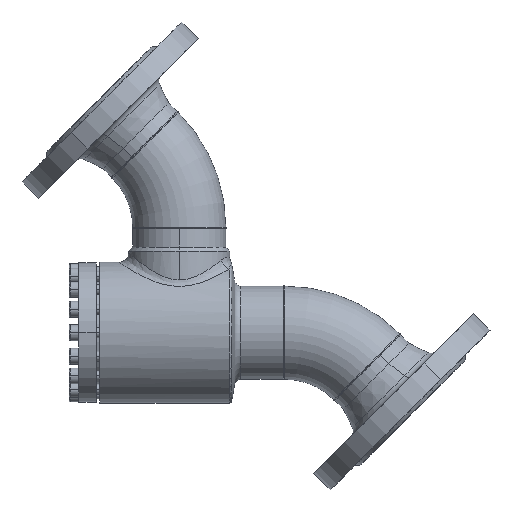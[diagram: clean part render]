
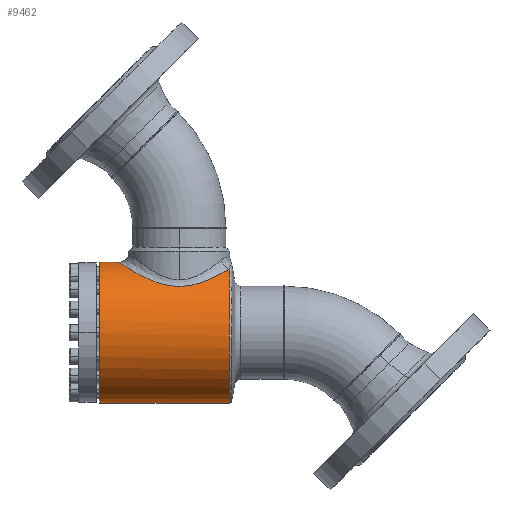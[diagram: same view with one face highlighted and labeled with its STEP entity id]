
A CAD part, left-side view. The second image highlights one B-rep face of the part: STEP entity #9462.
In plain terms, the highlighted cylindrical face has radius 57.5 mm (diameter 115 mm), a partial arc.
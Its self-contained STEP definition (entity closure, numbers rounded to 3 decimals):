
#1668 = CARTESIAN_POINT ( 'NONE',  ( 0., 0., -57.5 ) ) ;
#1777 = LINE ( 'NONE', #1778, #1779 ) ;
#1778 = CARTESIAN_POINT ( 'NONE',  ( 0., -111., -57.5 ) ) ;
#1779 = VECTOR ( 'NONE', #1780, 1000. ) ;
#1780 = DIRECTION ( 'NONE',  ( 0., 1., 0. ) ) ;
#1974 = CIRCLE ( 'NONE', #1975, 57.5 ) ;
#1975 = AXIS2_PLACEMENT_3D ( 'NONE', #1976, #1977, #1978 ) ;
#1976 = CARTESIAN_POINT ( 'NONE',  ( 0., 0., 0. ) ) ;
#1977 = DIRECTION ( 'NONE',  ( 0., 1., 0. ) ) ;
#1978 = DIRECTION ( 'NONE',  ( 0., 0., 1. ) ) ;
#2867 = B_SPLINE_CURVE_WITH_KNOTS ( 'NONE', 3,
 ( #2868, #2869, #2870, #2871, #2872, #2873, #2874, #2875, #2880, #2881, #2882, #2883, #2884, #2885, #2886, #2887, #2888, #2889, #2890, #2891, #2892, #2893, #2894, #2895, #2899, #2900, #2901, #2902, #2903, #2904, #2905, #2906, #2907, #2908, #2909, #2910, #2911, #2912, #2913, #2914, #2916, #2917, #2918, #2919, #2920, #2921, #2922, #2923, #2924, #2925, #2926, #2927, #2928, #2929, #2930, #2931, #2932, #2933, #2934, #2935, #2936, #2937 ),
 .UNSPECIFIED., .F., .F.,
 ( 4, 2, 2, 2, 2, 2, 2, 2, 2, 2, 2, 2, 2, 2, 2, 2, 2, 2, 2, 2, 2, 2, 2, 2, 2, 2, 2, 2, 2, 2, 4 ),
 ( 0., 0.008, 0.016, 0.017, 0.019, 0.023, 0.031, 0.035, 0.039, 0.047, 0.049, 0.05, 0.054, 0.058, 0.06, 0.062, 0.07, 0.074, 0.078, 0.085, 0.089, 0.091, 0.093, 0.101, 0.105, 0.107, 0.109, 0.116, 0.118, 0.12, 0.124 ),
 .UNSPECIFIED. ) ;
#2868 = CARTESIAN_POINT ( 'NONE',  ( -24.174, -105.892, 52.171 ) ) ;
#2869 = CARTESIAN_POINT ( 'NONE',  ( -26.132, -104.39, 51.264 ) ) ;
#2870 = CARTESIAN_POINT ( 'NONE',  ( -27.915, -102.76, 50.305 ) ) ;
#2871 = CARTESIAN_POINT ( 'NONE',  ( -31.195, -99.268, 48.34 ) ) ;
#2872 = CARTESIAN_POINT ( 'NONE',  ( -32.691, -97.405, 47.333 ) ) ;
#2873 = CARTESIAN_POINT ( 'NONE',  ( -34.397, -94.927, 46.079 ) ) ;
#2874 = CARTESIAN_POINT ( 'NONE',  ( -34.73, -94.424, 45.829 ) ) ;
#2875 = CARTESIAN_POINT ( 'NONE',  ( -35.379, -93.402, 45.329 ) ) ;
#2880 = CARTESIAN_POINT ( 'NONE',  ( -35.695, -92.884, 45.08 ) ) ;
#2881 = CARTESIAN_POINT ( 'NONE',  ( -36.613, -91.317, 44.344 ) ) ;
#2882 = CARTESIAN_POINT ( 'NONE',  ( -37.186, -90.253, 43.863 ) ) ;
#2883 = CARTESIAN_POINT ( 'NONE',  ( -38.793, -86.998, 42.466 ) ) ;
#2884 = CARTESIAN_POINT ( 'NONE',  ( -39.716, -84.747, 41.594 ) ) ;
#2885 = CARTESIAN_POINT ( 'NONE',  ( -40.882, -81.225, 40.437 ) ) ;
#2886 = CARTESIAN_POINT ( 'NONE',  ( -41.234, -80.027, 40.077 ) ) ;
#2887 = CARTESIAN_POINT ( 'NONE',  ( -41.862, -77.576, 39.421 ) ) ;
#2888 = CARTESIAN_POINT ( 'NONE',  ( -42.138, -76.319, 39.125 ) ) ;
#2889 = CARTESIAN_POINT ( 'NONE',  ( -42.831, -72.529, 38.37 ) ) ;
#2890 = CARTESIAN_POINT ( 'NONE',  ( -43.12, -69.961, 38.038 ) ) ;
#2891 = CARTESIAN_POINT ( 'NONE',  ( -43.257, -66.692, 37.883 ) ) ;
#2892 = CARTESIAN_POINT ( 'NONE',  ( -43.273, -66.034, 37.864 ) ) ;
#2893 = CARTESIAN_POINT ( 'NONE',  ( -43.282, -64.718, 37.854 ) ) ;
#2894 = CARTESIAN_POINT ( 'NONE',  ( -43.275, -64.063, 37.862 ) ) ;
#2895 = CARTESIAN_POINT ( 'NONE',  ( -43.219, -62.103, 37.926 ) ) ;
#2899 = CARTESIAN_POINT ( 'NONE',  ( -43.137, -60.806, 38.02 ) ) ;
#2900 = CARTESIAN_POINT ( 'NONE',  ( -42.884, -58.229, 38.305 ) ) ;
#2901 = CARTESIAN_POINT ( 'NONE',  ( -42.713, -56.95, 38.496 ) ) ;
#2902 = CARTESIAN_POINT ( 'NONE',  ( -42.391, -55.043, 38.85 ) ) ;
#2903 = CARTESIAN_POINT ( 'NONE',  ( -42.272, -54.408, 38.979 ) ) ;
#2904 = CARTESIAN_POINT ( 'NONE',  ( -42.014, -53.15, 39.257 ) ) ;
#2905 = CARTESIAN_POINT ( 'NONE',  ( -41.875, -52.528, 39.406 ) ) ;
#2906 = CARTESIAN_POINT ( 'NONE',  ( -41.13, -49.446, 40.191 ) ) ;
#2907 = CARTESIAN_POINT ( 'NONE',  ( -40.378, -47.077, 40.957 ) ) ;
#2908 = CARTESIAN_POINT ( 'NONE',  ( -39.022, -43.642, 42.237 ) ) ;
#2909 = CARTESIAN_POINT ( 'NONE',  ( -38.532, -42.517, 42.685 ) ) ;
#2910 = CARTESIAN_POINT ( 'NONE',  ( -37.473, -40.304, 43.618 ) ) ;
#2911 = CARTESIAN_POINT ( 'NONE',  ( -36.908, -39.223, 44.098 ) ) ;
#2912 = CARTESIAN_POINT ( 'NONE',  ( -35.115, -36.073, 45.559 ) ) ;
#2913 = CARTESIAN_POINT ( 'NONE',  ( -33.785, -34.085, 46.562 ) ) ;
#2914 = CARTESIAN_POINT ( 'NONE',  ( -31.574, -31.259, 48.064 ) ) ;
#2916 = CARTESIAN_POINT ( 'NONE',  ( -30.801, -30.343, 48.564 ) ) ;
#2917 = CARTESIAN_POINT ( 'NONE',  ( -29.582, -29.009, 49.309 ) ) ;
#2918 = CARTESIAN_POINT ( 'NONE',  ( -29.166, -28.57, 49.557 ) ) ;
#2919 = CARTESIAN_POINT ( 'NONE',  ( -28.313, -27.708, 50.049 ) ) ;
#2920 = CARTESIAN_POINT ( 'NONE',  ( -27.875, -27.282, 50.294 ) ) ;
#2921 = CARTESIAN_POINT ( 'NONE',  ( -25.646, -25.201, 51.504 ) ) ;
#2922 = CARTESIAN_POINT ( 'NONE',  ( -23.737, -23.688, 52.419 ) ) ;
#2923 = CARTESIAN_POINT ( 'NONE',  ( -20.66, -21.659, 53.671 ) ) ;
#2924 = CARTESIAN_POINT ( 'NONE',  ( -19.599, -21.023, 54.069 ) ) ;
#2925 = CARTESIAN_POINT ( 'NONE',  ( -17.948, -20.134, 54.63 ) ) ;
#2926 = CARTESIAN_POINT ( 'NONE',  ( -17.388, -19.848, 54.811 ) ) ;
#2927 = CARTESIAN_POINT ( 'NONE',  ( -16.247, -19.3, 55.16 ) ) ;
#2928 = CARTESIAN_POINT ( 'NONE',  ( -15.665, -19.037, 55.328 ) ) ;
#2929 = CARTESIAN_POINT ( 'NONE',  ( -12.734, -17.796, 56.125 ) ) ;
#2930 = CARTESIAN_POINT ( 'NONE',  ( -10.302, -17.028, 56.627 ) ) ;
#2931 = CARTESIAN_POINT ( 'NONE',  ( -7.142, -16.371, 57.058 ) ) ;
#2932 = CARTESIAN_POINT ( 'NONE',  ( -6.505, -16.254, 57.135 ) ) ;
#2933 = CARTESIAN_POINT ( 'NONE',  ( -5.216, -16.054, 57.267 ) ) ;
#2934 = CARTESIAN_POINT ( 'NONE',  ( -4.563, -15.969, 57.322 ) ) ;
#2935 = CARTESIAN_POINT ( 'NONE',  ( -2.602, -15.766, 57.456 ) ) ;
#2936 = CARTESIAN_POINT ( 'NONE',  ( -1.298, -15.7, 57.5 ) ) ;
#2937 = CARTESIAN_POINT ( 'NONE',  ( 0., -15.7, 57.5 ) ) ;
#6199 = FACE_OUTER_BOUND ( 'NONE', #9231, .T. ) ;
#6200 = CYLINDRICAL_SURFACE ( 'NONE', #6201, 57.5 ) ;
#6201 = AXIS2_PLACEMENT_3D ( 'NONE', #6205, #6206, #6207 ) ;
#6205 = CARTESIAN_POINT ( 'NONE',  ( 0., -111., 0. ) ) ;
#6206 = DIRECTION ( 'NONE',  ( 0., 1., 0. ) ) ;
#6207 = DIRECTION ( 'NONE',  ( 0., 0., 1. ) ) ;
#6292 = ORIENTED_EDGE ( 'NONE', *, *, #12025, .T. ) ;
#6791 = EDGE_CURVE ( 'NONE', #7653, #11813, #2867, .T. ) ;
#7157 = ORIENTED_EDGE ( 'NONE', *, *, #6791, .T. ) ;
#7653 = VERTEX_POINT ( 'NONE', #9125 ) ;
#7867 = EDGE_CURVE ( 'NONE', #8008, #7653, #9413, .T. ) ;
#8008 = VERTEX_POINT ( 'NONE', #9577 ) ;
#8228 = ORIENTED_EDGE ( 'NONE', *, *, #7867, .T. ) ;
#8375 = CARTESIAN_POINT ( 'NONE',  ( 0., -15.7, 57.5 ) ) ;
#8693 = LINE ( 'NONE', #8694, #8697 ) ;
#8694 = CARTESIAN_POINT ( 'NONE',  ( 0., -111., 57.5 ) ) ;
#8697 = VECTOR ( 'NONE', #8698, 1000. ) ;
#8698 = DIRECTION ( 'NONE',  ( 0., 1., 0. ) ) ;
#8730 = ORIENTED_EDGE ( 'NONE', *, *, #14339, .F. ) ;
#9125 = CARTESIAN_POINT ( 'NONE',  ( -24.174, -105.892, 52.171 ) ) ;
#9231 = EDGE_LOOP ( 'NONE', ( #8730, #8228, #7157, #6292, #14960 ) ) ;
#9413 = CIRCLE ( 'NONE', #9414, 57.5 ) ;
#9414 = AXIS2_PLACEMENT_3D ( 'NONE', #9415, #9416, #9417 ) ;
#9415 = CARTESIAN_POINT ( 'NONE',  ( 0., -105.892, 0. ) ) ;
#9416 = DIRECTION ( 'NONE',  ( 0., 1., 0. ) ) ;
#9417 = DIRECTION ( 'NONE',  ( 0., 0., -1. ) ) ;
#9462 = ADVANCED_FACE ( 'NONE', ( #6199 ), #6200, .T. ) ;
#9577 = CARTESIAN_POINT ( 'NONE',  ( 0., -105.892, -57.5 ) ) ;
#10143 = CARTESIAN_POINT ( 'NONE',  ( 0., 0., 57.5 ) ) ;
#11813 = VERTEX_POINT ( 'NONE', #8375 ) ;
#12025 = EDGE_CURVE ( 'NONE', #11813, #13040, #8693, .T. ) ;
#13040 = VERTEX_POINT ( 'NONE', #10143 ) ;
#14121 = VERTEX_POINT ( 'NONE', #1668 ) ;
#14339 = EDGE_CURVE ( 'NONE', #8008, #14121, #1777, .T. ) ;
#14596 = EDGE_CURVE ( 'NONE', #14121, #13040, #1974, .T. ) ;
#14960 = ORIENTED_EDGE ( 'NONE', *, *, #14596, .F. ) ;
